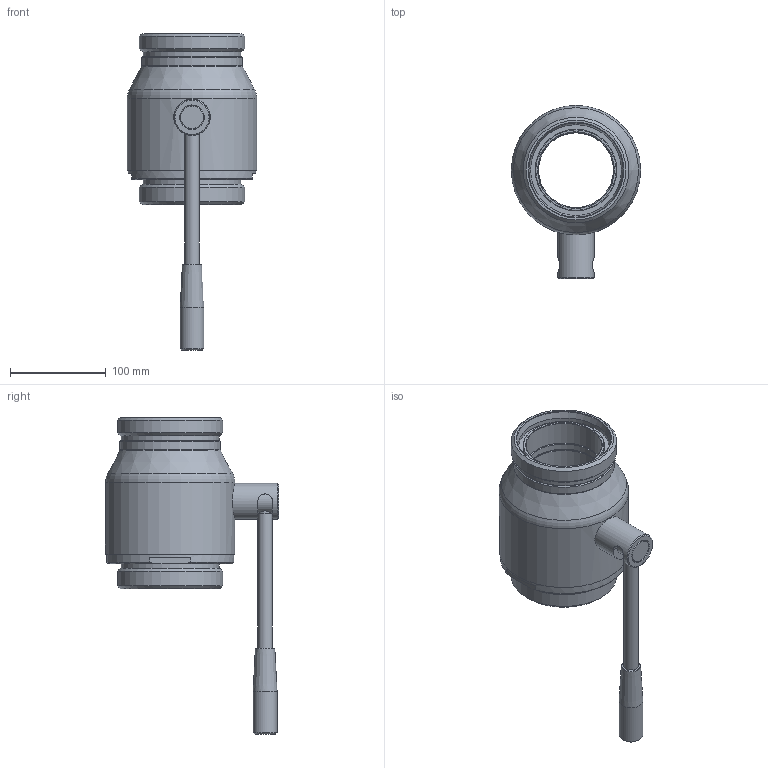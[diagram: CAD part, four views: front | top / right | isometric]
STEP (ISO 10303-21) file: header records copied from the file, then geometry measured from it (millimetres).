
FILE_DESCRIPTION(/* description */ ('Unknown'),/* implementation_level */ '2;1');
FILE_NAME(/* name */ '81SP-080',/* time_stamp */ '2020-04-02T15:31:03+02:00',/* author */ ('Unknown'),/* organization */ ('Unknown'),/* preprocessor_version */ 'ST-DEVELOPER v16.7',/* originating_system */ 'DEX',/* authorisation */ $);
FILE_SCHEMA (('AUTOMOTIVE_DESIGN {1 0 10303 214 3 1 1}'));
Length unit declared in the file: millimetre
Products named in the file (1): 81SP-080
Bounding box: 135 x 180.5 x 330.65 mm (x, y, z)
Volume: 936112.2 mm3; surface area: 312774.4 mm2
Topology: 2 solids, 6 shells, 174 faces, 364 edges, 231 vertices
Faces by surface type: plane 58, cylinder 54, cone 47, torus 11, sphere 4
Full cylindrical faces by diameter (mm): 11.835 x2, 14 x1, 15 x1, 15.1 x1, 20.5 x3, 24.5 x4, 24.7 x1, 24.8 x1, 25 x5, 25.3 x1, 28 x1, 30 x1, 31 x1, 37.7 x1, 38 x1, 78 x2, 79 x3, 85 x2, 94 x1, 94.2 x1, 94.8 x2, 100 x1, 100.2 x1, 102 x2, 105 x1, 110 x2, 125 x1, 127.435 x3, 129.85 x1, 133 x1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
Entity records: 5088 total; most frequent: CARTESIAN_POINT 732, DIRECTION 720, ORIENTED_EDGE 430, AXIS2_PLACEMENT_3D 347, FACE_BOUND 326, EDGE_LOOP 324, EDGE_CURVE 215, VERTEX_POINT 193
